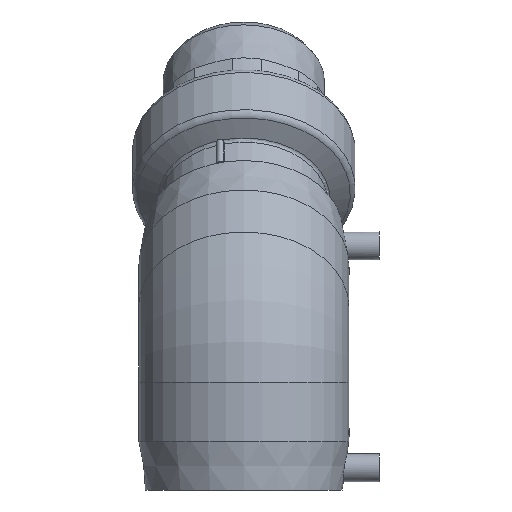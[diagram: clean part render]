
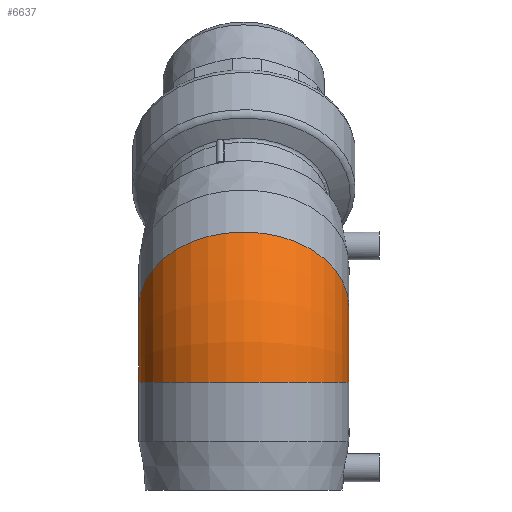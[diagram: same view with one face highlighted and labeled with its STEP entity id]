
A CAD part, left-side view. The second image highlights one B-rep face of the part: STEP entity #6637.
In plain terms, the highlighted toroidal (fillet/blend) face has major radius 57.941 mm and minor radius 56.5 mm.
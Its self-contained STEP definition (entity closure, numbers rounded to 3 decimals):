
#248=TOROIDAL_SURFACE('',#8421,57.941,56.5);
#1203=ORIENTED_EDGE('',*,*,#3376,.T.);
#1204=ORIENTED_EDGE('',*,*,#3377,.F.);
#3376=EDGE_CURVE('',#4468,#4468,#5209,.F.);
#3377=EDGE_CURVE('',#4469,#4469,#5210,.F.);
#4468=VERTEX_POINT('',#11120);
#4469=VERTEX_POINT('',#11123);
#5209=CIRCLE('',#8420,56.5);
#5210=CIRCLE('',#8422,56.5);
#5551=EDGE_LOOP('',(#1203));
#5552=EDGE_LOOP('',(#1204));
#6058=FACE_BOUND('',#5551,.T.);
#6059=FACE_BOUND('',#5552,.T.);
#6637=ADVANCED_FACE('',(#6058,#6059),#248,.T.);
#8420=AXIS2_PLACEMENT_3D('',#11119,#9311,#9312);
#8421=AXIS2_PLACEMENT_3D('',#11121,#9313,#9314);
#8422=AXIS2_PLACEMENT_3D('',#11122,#9315,#9316);
#9311=DIRECTION('',(0.,0.,-1.));
#9312=DIRECTION('',(1.,0.,0.));
#9313=DIRECTION('',(0.,1.,0.));
#9314=DIRECTION('',(0.,0.,1.));
#9315=DIRECTION('',(-0.707,0.,-0.707));
#9316=DIRECTION('',(0.707,0.,-0.707));
#11119=CARTESIAN_POINT('',(0.,0.,-24.));
#11120=CARTESIAN_POINT('',(56.5,0.,-24.));
#11121=CARTESIAN_POINT('',(57.941,0.,-24.));
#11122=CARTESIAN_POINT('',(16.971,0.,16.971));
#11123=CARTESIAN_POINT('',(56.922,0.,-22.981));
